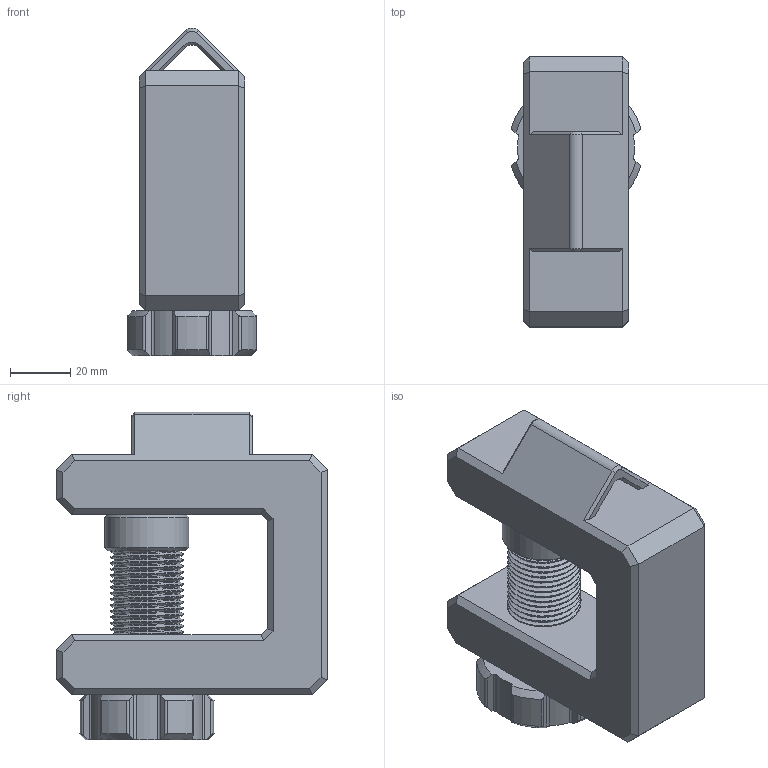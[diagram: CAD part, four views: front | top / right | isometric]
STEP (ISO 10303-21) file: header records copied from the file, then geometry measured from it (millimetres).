
FILE_DESCRIPTION(/* description */ (''),/* implementation_level */ '2;1');
FILE_NAME(/* name */ 'Modular Clamp V1 - 90 deg v1.step',/* time_stamp */ '2023-07-09T12:24:39+02:00',/* author */ (''),/* organization */ (''),/* preprocessor_version */ 'ST-DEVELOPER v19.2',/* originating_system */ 'Autodesk Translation Framework v12.6.0.85',/* authorisation */ '');
FILE_SCHEMA (('AUTOMOTIVE_DESIGN { 1 0 10303 214 3 1 1 }'));
Length unit declared in the file: millimetre
Products named in the file (1): Modular Clamp V1 - 90 deg
Bounding box: 42.99 x 90 x 109.25 mm (x, y, z)
Volume: 194683.6 mm3; surface area: 42308.3 mm2
Topology: 3 solids, 3 shells, 254 faces, 700 edges, 451 vertices
Faces by surface type: cylinder 122, plane 85, bspline 25, cone 22
Full cylindrical faces by diameter (mm): 21.929 x28, 24 x1, 24.222 x28, 28 x1
Entity records: 18162 total; most frequent: CARTESIAN_POINT 12218, ORIENTED_EDGE 1400, DIRECTION 980, EDGE_CURVE 700, VERTEX_POINT 451, LINE 350, VECTOR 350, AXIS2_PLACEMENT_3D 315
